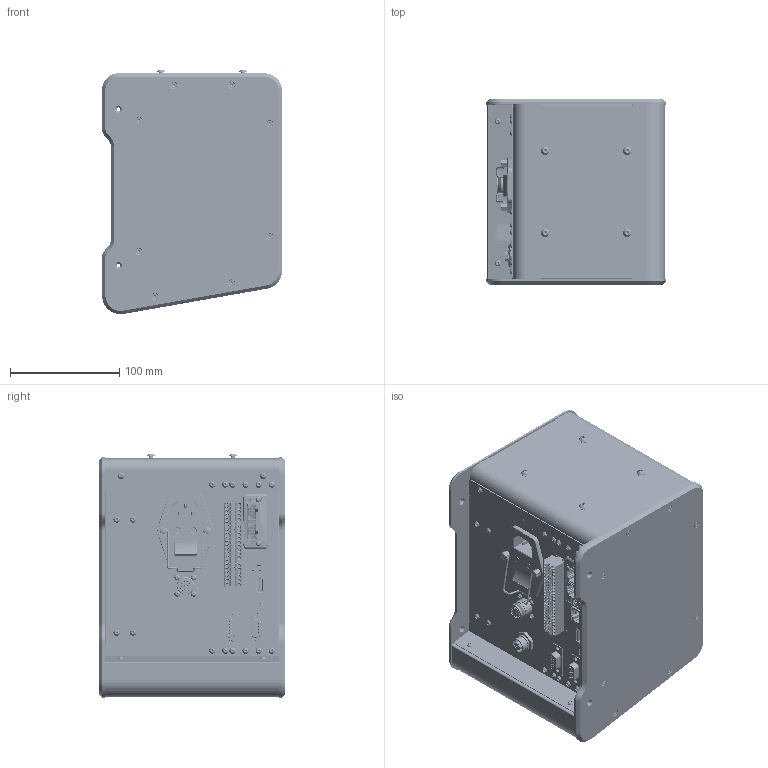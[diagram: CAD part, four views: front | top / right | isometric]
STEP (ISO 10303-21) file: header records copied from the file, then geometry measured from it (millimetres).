
FILE_DESCRIPTION (( 'STEP AP214' ), '1' );
FILE_NAME ('KDU 1A.STEP', '2019-10-18T07:41:16', ( '' ), ( '' ), 'SwSTEP 2.0', 'SolidWorks 2017', '' );
FILE_SCHEMA (( 'AUTOMOTIVE_DESIGN' ));
Length unit declared in the file: millimetre
Products named in the file (2): KDU 1A
Bounding box: 164.59 x 170 x 223.64 mm (x, y, z)
Surface area: 363272 mm2 (no closed solid volume)
Topology: 0 solids, 300 shells, 2991 faces, 16657 edges, 13434 vertices
Faces by surface type: cylinder 1315, plane 1115, cone 312, bspline 204, torus 45
Entity records: 230057 total; most frequent: CARTESIAN_POINT 72586, DIRECTION 24727, ORIENTED_EDGE 21724, EDGE_CURVE 16555, VERTEX_POINT 13428, VECTOR 9399, LINE 9399, AXIS2_PLACEMENT_3D 7664
